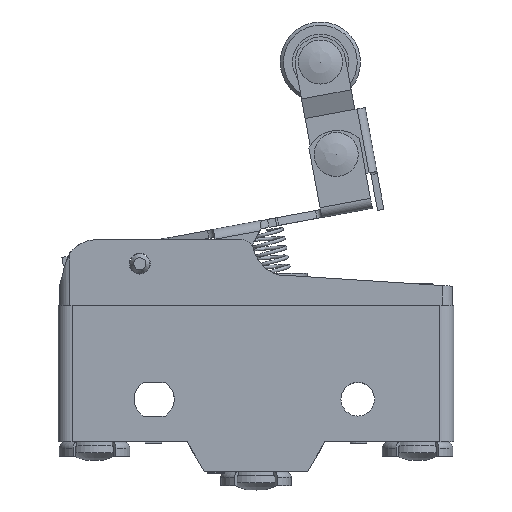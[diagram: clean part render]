
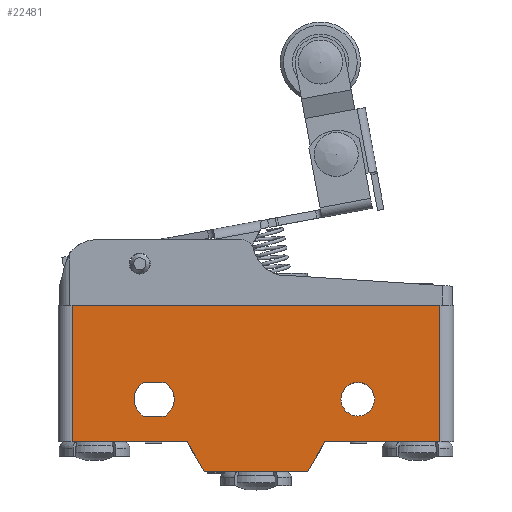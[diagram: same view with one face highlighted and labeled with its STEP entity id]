
A CAD part, top view. The second image highlights one B-rep face of the part: STEP entity #22481.
In plain terms, the highlighted planar face has unit normal (0, 0, 1).
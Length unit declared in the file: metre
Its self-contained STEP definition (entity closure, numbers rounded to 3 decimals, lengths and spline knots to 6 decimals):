
#19731=CARTESIAN_POINT('',(0.007822,-0.007756,0.05825));
#19732=VERTEX_POINT('',#19731);
#19735=CARTESIAN_POINT('',(0.005686,-0.011456,0.05825));
#19736=DIRECTION('',(0.5,0.866,0.));
#19737=VECTOR('',#19736,1.);
#19738=LINE('',#19735,#19737);
#19739=CARTESIAN_POINT('',(0.005686,-0.011456,0.05825));
#19740=VERTEX_POINT('',#19739);
#19741=EDGE_CURVE('',#19740,#19732,#19738,.T.);
#20517=CARTESIAN_POINT('',(-0.007242,-0.011456,0.05825));
#20518=DIRECTION('',(1.,0.,0.));
#20519=VECTOR('',#20518,1.);
#20520=LINE('',#20517,#20519);
#20521=CARTESIAN_POINT('',(-0.007242,-0.011456,0.05825));
#20522=VERTEX_POINT('',#20521);
#20523=EDGE_CURVE('',#20522,#19740,#20520,.T.);
#20626=CARTESIAN_POINT('',(-0.009378,-0.007756,0.05825));
#20627=DIRECTION('',(0.5,-0.866,0.));
#20628=VECTOR('',#20627,1.);
#20629=LINE('',#20626,#20628);
#20630=CARTESIAN_POINT('',(-0.009378,-0.007756,0.05825));
#20631=VERTEX_POINT('',#20630);
#20632=EDGE_CURVE('',#20631,#20522,#20629,.T.);
#22085=CARTESIAN_POINT('',(-0.025478,-0.007756,0.05825));
#22086=DIRECTION('',(1.,0.,0.));
#22087=VECTOR('',#22086,1.);
#22088=LINE('',#22085,#22087);
#22089=CARTESIAN_POINT('',(-0.023728,-0.007756,0.05825));
#22090=VERTEX_POINT('',#22089);
#22091=EDGE_CURVE('',#22090,#20631,#22088,.T.);
#22206=CARTESIAN_POINT('',(-0.023728,0.009244,0.05825));
#22207=VERTEX_POINT('',#22206);
#22212=CARTESIAN_POINT('',(-0.023728,-0.003156,0.05825));
#22213=DIRECTION('',(0.,-1.,0.));
#22214=VECTOR('',#22213,1.);
#22215=LINE('',#22212,#22214);
#22216=EDGE_CURVE('',#22207,#22090,#22215,.T.);
#22239=CARTESIAN_POINT('',(0.022172,-0.007756,0.05825));
#22240=VERTEX_POINT('',#22239);
#22258=CARTESIAN_POINT('',(0.022172,0.009244,0.05825));
#22259=VERTEX_POINT('',#22258);
#22262=CARTESIAN_POINT('',(0.022172,-0.003156,0.05825));
#22263=DIRECTION('',(0.,1.,0.));
#22264=VECTOR('',#22263,1.);
#22265=LINE('',#22262,#22264);
#22266=EDGE_CURVE('',#22240,#22259,#22265,.T.);
#22299=CARTESIAN_POINT('',(-0.014834,-0.000356,0.05825));
#22300=VERTEX_POINT('',#22299);
#22303=CARTESIAN_POINT('',(-0.013478,-0.002456,0.05825));
#22304=DIRECTION('',(0.,0.,1.));
#22305=DIRECTION('',(1.,0.,0.));
#22306=AXIS2_PLACEMENT_3D('',#22303,#22304,#22305);
#22307=CIRCLE('',#22306,0.0025);
#22308=CARTESIAN_POINT('',(-0.014834,-0.004556,0.05825));
#22309=VERTEX_POINT('',#22308);
#22310=EDGE_CURVE('',#22300,#22309,#22307,.T.);
#22343=CARTESIAN_POINT('',(-0.012121,-0.004556,0.05825));
#22344=DIRECTION('',(1.,0.,0.));
#22345=VECTOR('',#22344,1.);
#22346=LINE('',#22343,#22345);
#22347=CARTESIAN_POINT('',(-0.012121,-0.004556,0.05825));
#22348=VERTEX_POINT('',#22347);
#22349=EDGE_CURVE('',#22309,#22348,#22346,.T.);
#22373=CARTESIAN_POINT('',(-0.013478,-0.002456,0.05825));
#22374=DIRECTION('',(0.,0.,1.));
#22375=DIRECTION('',(1.,0.,0.));
#22376=AXIS2_PLACEMENT_3D('',#22373,#22374,#22375);
#22377=CIRCLE('',#22376,0.0025);
#22378=CARTESIAN_POINT('',(-0.012121,-0.000356,0.05825));
#22379=VERTEX_POINT('',#22378);
#22380=EDGE_CURVE('',#22348,#22379,#22377,.T.);
#22415=CARTESIAN_POINT('',(-0.012121,-0.000356,0.05825));
#22416=DIRECTION('',(-1.,0.,0.));
#22417=VECTOR('',#22416,1.);
#22418=LINE('',#22415,#22417);
#22419=EDGE_CURVE('',#22379,#22300,#22418,.T.);
#22439=CARTESIAN_POINT('',(0.012562,-0.003156,0.05825));
#22440=DIRECTION('',(0.,0.,-1.));
#22441=DIRECTION('',(-1.,0.,0.));
#22442=AXIS2_PLACEMENT_3D('',#22439,#22440,#22441);
#22443=PLANE('',#22442);
#22444=ORIENTED_EDGE('',*,*,#22419,.F.);
#22445=ORIENTED_EDGE('',*,*,#22380,.F.);
#22446=ORIENTED_EDGE('',*,*,#22349,.F.);
#22447=ORIENTED_EDGE('',*,*,#22310,.F.);
#22448=EDGE_LOOP('',(#22444,#22445,#22446,#22447));
#22449=FACE_BOUND('',#22448,.T.);
#22450=CARTESIAN_POINT('',(0.011922,-0.002456,0.05825));
#22451=DIRECTION('',(0.,0.,1.));
#22452=DIRECTION('',(1.,0.,0.));
#22453=AXIS2_PLACEMENT_3D('',#22450,#22451,#22452);
#22454=CIRCLE('',#22453,0.0021);
#22455=CARTESIAN_POINT('',(0.009822,-0.002456,0.05825));
#22456=VERTEX_POINT('',#22455);
#22457=EDGE_CURVE('',#22456,#22456,#22454,.T.);
#22458=ORIENTED_EDGE('',*,*,#22457,.F.);
#22459=EDGE_LOOP('',(#22458));
#22460=FACE_BOUND('',#22459,.T.);
#22461=CARTESIAN_POINT('',(0.007822,-0.007756,0.05825));
#22462=DIRECTION('',(1.,0.,0.));
#22463=VECTOR('',#22462,1.);
#22464=LINE('',#22461,#22463);
#22465=EDGE_CURVE('',#19732,#22240,#22464,.T.);
#22466=ORIENTED_EDGE('',*,*,#22465,.T.);
#22467=ORIENTED_EDGE('',*,*,#22266,.T.);
#22468=CARTESIAN_POINT('',(0.023922,0.009244,0.05825));
#22469=DIRECTION('',(-1.,0.,0.));
#22470=VECTOR('',#22469,1.);
#22471=LINE('',#22468,#22470);
#22472=EDGE_CURVE('',#22259,#22207,#22471,.T.);
#22473=ORIENTED_EDGE('',*,*,#22472,.T.);
#22474=ORIENTED_EDGE('',*,*,#22216,.T.);
#22475=ORIENTED_EDGE('',*,*,#22091,.T.);
#22476=ORIENTED_EDGE('',*,*,#20632,.T.);
#22477=ORIENTED_EDGE('',*,*,#20523,.T.);
#22478=ORIENTED_EDGE('',*,*,#19741,.T.);
#22479=EDGE_LOOP('',(#22466,#22467,#22473,#22474,#22475,#22476,#22477,#22478));
#22480=FACE_BOUND('',#22479,.T.);
#22481=ADVANCED_FACE('',(#22449,#22460,#22480),#22443,.F.);
